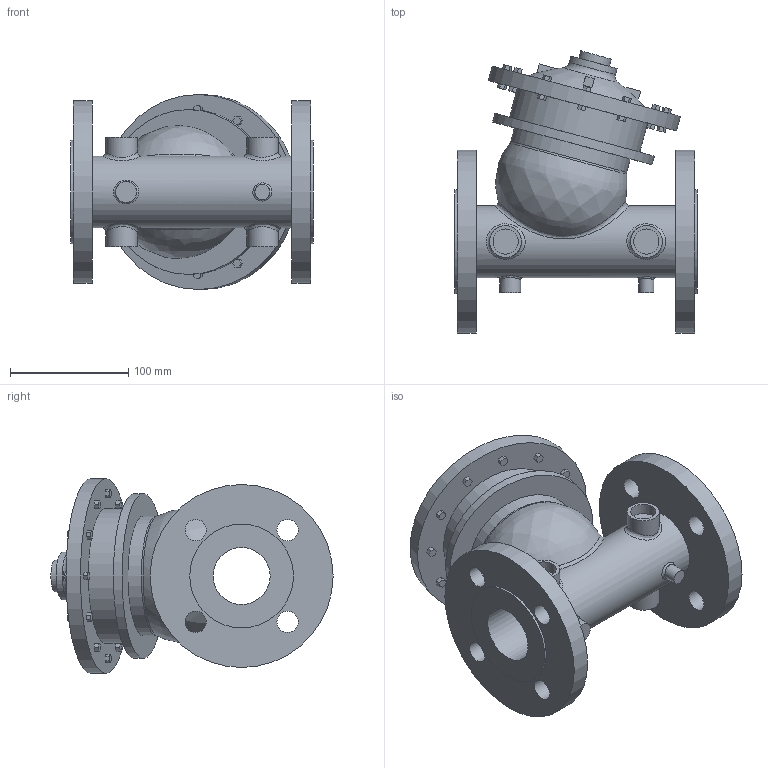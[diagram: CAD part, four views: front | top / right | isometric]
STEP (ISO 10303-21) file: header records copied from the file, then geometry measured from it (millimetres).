
FILE_DESCRIPTION(/* description */ ('VIC FP VALVE PRESSURE RELIEF SERIES 867-7UF (PN25)','CAx-IF Rec.Pracs.---Representation and Presentation of Product Manufacturing Information (PMI)---4.0---2014-10-13'),/* implementation_level */ '2;1');
FILE_NAME(/* name */ 'C:\Series 867-7UF\New folder (2)\step\Victaulic_FP-Bermad_Valve Pressure Relief_Series 867-7UF (PN25)\Victaulic_FP-Bermad_Valve Pressure Relief_Series 867-7UF (PN25)_1.5 (40).stp',/* time_stamp */ '2021-09-02T12:55:47+05:00',/* author */ ('kkamble'),/* organization */ ('Victaulic'),/* preprocessor_version */ 'ST-DEVELOPER v17.2',/* originating_system */ 'Autodesk Inventor 2019',/* authorisation */ '');
FILE_SCHEMA (('AP242_MANAGED_MODEL_BASED_3D_ENGINEERING_MIM_LF { 1 0 10303 442 1 1 4 }'));
Length unit declared in the file: inch
Products named in the file (1): 867-7UF-01.5
Bounding box: 204.98 x 239 x 165.1 mm (x, y, z)
Volume: 2044796.2 mm3; surface area: 245070.4 mm2
Topology: 1 solids, 1 shells, 251 faces, 637 edges, 433 vertices
Faces by surface type: plane 210, cylinder 30, bspline 9, torus 2
Full cylindrical faces by diameter (mm): 12.7 x1, 17.78 x1, 18.034 x8, 21.336 x4, 26.67 x1, 26.873 x4, 40.64 x1, 48.26 x1, 60.96 x1, 87.884 x2, 101.6 x1, 114.3 x1, 139.7 x1, 154.94 x2, 165.1 x1
Entity records: 9067 total; most frequent: CARTESIAN_POINT 2534, ORIENTED_EDGE 1286, DIRECTION 1204, EDGE_CURVE 643, LINE 502, VECTOR 502, VERTEX_POINT 439, AXIS2_PLACEMENT_3D 351
